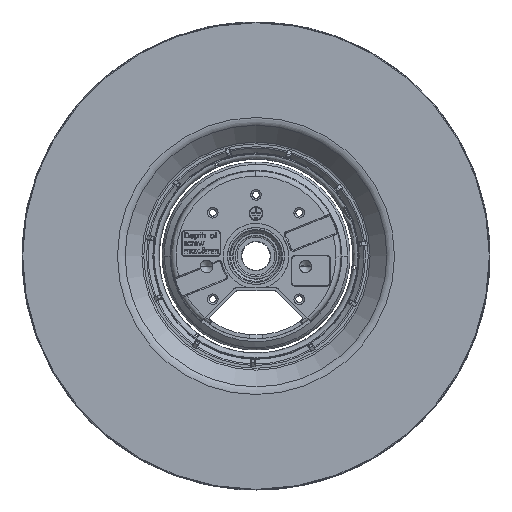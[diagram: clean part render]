
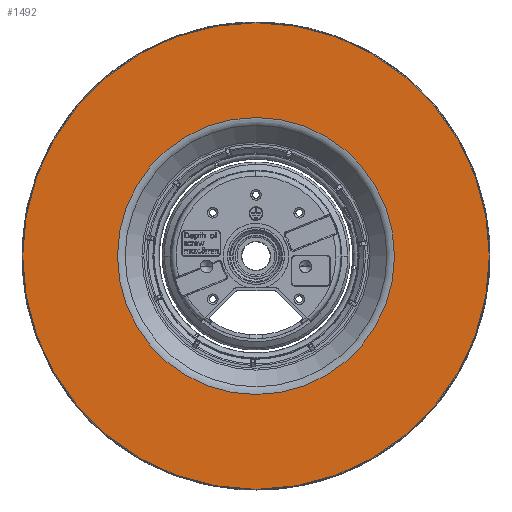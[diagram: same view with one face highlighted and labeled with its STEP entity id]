
A CAD part, top view. The second image highlights one B-rep face of the part: STEP entity #1492.
In plain terms, the highlighted planar face has unit normal (0, 0, 1).
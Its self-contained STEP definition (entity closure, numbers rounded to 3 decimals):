
#906=FACE_BOUND('',#4270,.T.);
#907=FACE_BOUND('',#4271,.T.);
#1058=CIRCLE('',#20611,110.677);
#1276=CIRCLE('',#21024,65.684);
#1492=ADVANCED_FACE('',(#906,#907),#2562,.T.);
#2562=PLANE('',#21026);
#4270=EDGE_LOOP('',(#7060));
#4271=EDGE_LOOP('',(#7061));
#7060=ORIENTED_EDGE('',*,*,#14614,.F.);
#7061=ORIENTED_EDGE('',*,*,#15186,.F.);
#12493=VERTEX_POINT('',#25436);
#12891=VERTEX_POINT('',#28167);
#14614=EDGE_CURVE('',#12493,#12493,#1058,.T.);
#15186=EDGE_CURVE('',#12891,#12891,#1276,.T.);
#20611=AXIS2_PLACEMENT_3D('',#25435,#22141,#22142);
#21024=AXIS2_PLACEMENT_3D('',#28166,#23067,#23068);
#21026=AXIS2_PLACEMENT_3D('',#28169,#23071,#23072);
#22141=DIRECTION('',(0.,0.,-1.));
#22142=DIRECTION('',(0.,-1.,0.));
#23067=DIRECTION('',(0.,0.,1.));
#23068=DIRECTION('',(-1.,0.,0.));
#23071=DIRECTION('',(0.,0.,1.));
#23072=DIRECTION('',(1.,0.,0.));
#25435=CARTESIAN_POINT('',(0.,0.,45.6));
#25436=CARTESIAN_POINT('',(0.,-110.677,45.6));
#28166=CARTESIAN_POINT('',(0.,0.,45.6));
#28167=CARTESIAN_POINT('',(-65.684,0.,45.6));
#28169=CARTESIAN_POINT('',(-113.98,-120.5,45.6));
